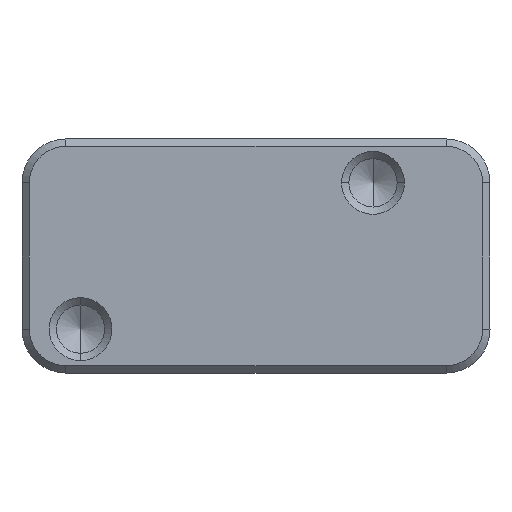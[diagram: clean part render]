
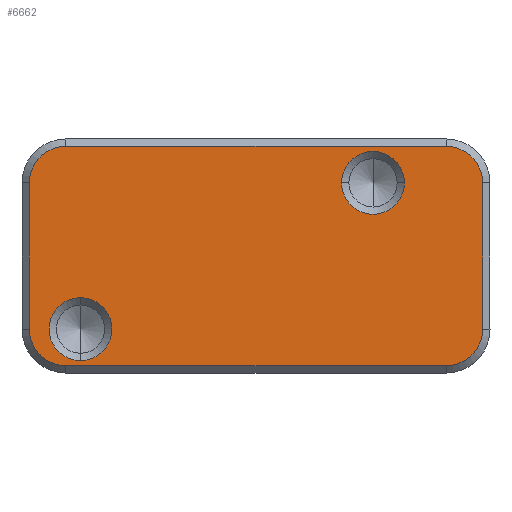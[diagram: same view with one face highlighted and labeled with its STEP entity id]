
A CAD part, front view. The second image highlights one B-rep face of the part: STEP entity #6662.
In plain terms, the highlighted planar face has unit normal (0, -1, 0).
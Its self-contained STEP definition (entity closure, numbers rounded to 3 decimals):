
#17 = CARTESIAN_POINT ( 'NONE',  ( 8.45, -0.189, -4.503 ) ) ;
#85 = DIRECTION ( 'NONE',  ( 0., 0., 1. ) ) ;
#386 = CARTESIAN_POINT ( 'NONE',  ( -13.4, -0.189, -2.003 ) ) ;
#515 = AXIS2_PLACEMENT_3D ( 'NONE', #7752, #13300, #9997 ) ;
#579 = DIRECTION ( 'NONE',  ( 0., 1., 0. ) ) ;
#908 = DIRECTION ( 'NONE',  ( 0., 0., -1. ) ) ;
#919 = EDGE_CURVE ( 'NONE', #4535, #3289, #2318, .T. ) ;
#978 = CARTESIAN_POINT ( 'NONE',  ( 18.1, -0.189, -14.504 ) ) ;
#1719 = DIRECTION ( 'NONE',  ( 0., 0., -1. ) ) ;
#1845 = FACE_BOUND ( 'NONE', #9796, .T. ) ;
#1849 = ORIENTED_EDGE ( 'NONE', *, *, #2703, .T. ) ;
#1907 = DIRECTION ( 'NONE',  ( 0., -1., 0. ) ) ;
#1922 = DIRECTION ( 'NONE',  ( 0., -1., 0. ) ) ;
#1989 = PLANE ( 'NONE',  #3981 ) ;
#2113 = CIRCLE ( 'NONE', #5336, 2.15 ) ;
#2162 = CARTESIAN_POINT ( 'NONE',  ( -10.4, -0.189, -17.003 ) ) ;
#2195 = CARTESIAN_POINT ( 'NONE',  ( 12.75, -0.189, -4.503 ) ) ;
#2318 = CIRCLE ( 'NONE', #7362, 2.15 ) ;
#2359 = VECTOR ( 'NONE', #13171, 1000. ) ;
#2497 = ORIENTED_EDGE ( 'NONE', *, *, #5726, .T. ) ;
#2703 = EDGE_CURVE ( 'NONE', #9587, #9918, #8299, .T. ) ;
#3004 = VERTEX_POINT ( 'NONE', #8580 ) ;
#3289 = VERTEX_POINT ( 'NONE', #5456 ) ;
#3507 = VECTOR ( 'NONE', #8004, 1000. ) ;
#3850 = CARTESIAN_POINT ( 'NONE',  ( -12.9, -0.189, -17.503 ) ) ;
#3929 = CARTESIAN_POINT ( 'NONE',  ( -13.4, -0.189, -17.503 ) ) ;
#3981 = AXIS2_PLACEMENT_3D ( 'NONE', #3929, #1922, #908 ) ;
#3993 = EDGE_LOOP ( 'NONE', ( #7591, #5839, #7909, #1849, #2497, #6149, #6877, #13427 ) ) ;
#4172 = AXIS2_PLACEMENT_3D ( 'NONE', #9026, #1907, #7289 ) ;
#4326 = CARTESIAN_POINT ( 'NONE',  ( 15.6, -0.189, -14.504 ) ) ;
#4474 = DIRECTION ( 'NONE',  ( 0., 0., -1. ) ) ;
#4535 = VERTEX_POINT ( 'NONE', #7734 ) ;
#4540 = EDGE_CURVE ( 'NONE', #3004, #11472, #8589, .T. ) ;
#4640 = AXIS2_PLACEMENT_3D ( 'NONE', #7964, #6814, #11205 ) ;
#4649 = VERTEX_POINT ( 'NONE', #17 ) ;
#4717 = EDGE_CURVE ( 'NONE', #8442, #4649, #2113, .T. ) ;
#4791 = EDGE_CURVE ( 'NONE', #13276, #9749, #5324, .T. ) ;
#4876 = AXIS2_PLACEMENT_3D ( 'NONE', #5254, #9647, #14028 ) ;
#5183 = DIRECTION ( 'NONE',  ( 1., 0., 0. ) ) ;
#5220 = FACE_OUTER_BOUND ( 'NONE', #3993, .T. ) ;
#5235 = CARTESIAN_POINT ( 'NONE',  ( -12.9, -0.189, -14.504 ) ) ;
#5254 = CARTESIAN_POINT ( 'NONE',  ( -10.4, -0.189, -14.504 ) ) ;
#5324 = LINE ( 'NONE', #5464, #12692 ) ;
#5336 = AXIS2_PLACEMENT_3D ( 'NONE', #10433, #579, #5183 ) ;
#5456 = CARTESIAN_POINT ( 'NONE',  ( -9.4, -0.189, -16.653 ) ) ;
#5464 = CARTESIAN_POINT ( 'NONE',  ( -13.4, -0.189, -17.003 ) ) ;
#5533 = LINE ( 'NONE', #13099, #2359 ) ;
#5726 = EDGE_CURVE ( 'NONE', #9918, #7664, #6855, .T. ) ;
#5770 = CARTESIAN_POINT ( 'NONE',  ( -10.4, -0.189, -2.003 ) ) ;
#5839 = ORIENTED_EDGE ( 'NONE', *, *, #7870, .F. ) ;
#6149 = ORIENTED_EDGE ( 'NONE', *, *, #9094, .T. ) ;
#6170 = DIRECTION ( 'NONE',  ( 0., 1., 0. ) ) ;
#6485 = CARTESIAN_POINT ( 'NONE',  ( -9.4, -0.189, -14.503 ) ) ;
#6662 = ADVANCED_FACE ( 'NONE', ( #5220, #1845, #11698 ), #1989, .T. ) ;
#6711 = CIRCLE ( 'NONE', #515, 2.15 ) ;
#6714 = ORIENTED_EDGE ( 'NONE', *, *, #9804, .T. ) ;
#6733 = AXIS2_PLACEMENT_3D ( 'NONE', #4326, #11351, #85 ) ;
#6814 = DIRECTION ( 'NONE',  ( 0., -1., 0. ) ) ;
#6855 = LINE ( 'NONE', #386, #3507 ) ;
#6877 = ORIENTED_EDGE ( 'NONE', *, *, #4540, .T. ) ;
#7109 = AXIS2_PLACEMENT_3D ( 'NONE', #7466, #6170, #1719 ) ;
#7289 = DIRECTION ( 'NONE',  ( 0., 0., 1. ) ) ;
#7362 = AXIS2_PLACEMENT_3D ( 'NONE', #6485, #10871, #4474 ) ;
#7466 = CARTESIAN_POINT ( 'NONE',  ( -9.4, -0.189, -14.503 ) ) ;
#7591 = ORIENTED_EDGE ( 'NONE', *, *, #4791, .F. ) ;
#7664 = VERTEX_POINT ( 'NONE', #5770 ) ;
#7734 = CARTESIAN_POINT ( 'NONE',  ( -9.4, -0.189, -12.353 ) ) ;
#7752 = CARTESIAN_POINT ( 'NONE',  ( 10.6, -0.189, -4.503 ) ) ;
#7870 = EDGE_CURVE ( 'NONE', #11740, #13276, #10407, .T. ) ;
#7909 = ORIENTED_EDGE ( 'NONE', *, *, #9897, .T. ) ;
#7964 = CARTESIAN_POINT ( 'NONE',  ( -10.4, -0.189, -4.503 ) ) ;
#7986 = CARTESIAN_POINT ( 'NONE',  ( 18.1, -0.189, -4.503 ) ) ;
#8004 = DIRECTION ( 'NONE',  ( -1., 0., 0. ) ) ;
#8182 = CARTESIAN_POINT ( 'NONE',  ( 15.6, -0.189, -2.003 ) ) ;
#8299 = CIRCLE ( 'NONE', #4172, 2.5 ) ;
#8442 = VERTEX_POINT ( 'NONE', #2195 ) ;
#8580 = CARTESIAN_POINT ( 'NONE',  ( -12.9, -0.189, -4.503 ) ) ;
#8589 = LINE ( 'NONE', #3850, #12227 ) ;
#8758 = CARTESIAN_POINT ( 'NONE',  ( 15.6, -0.189, -17.003 ) ) ;
#8882 = ORIENTED_EDGE ( 'NONE', *, *, #4717, .T. ) ;
#9026 = CARTESIAN_POINT ( 'NONE',  ( 15.6, -0.189, -4.503 ) ) ;
#9094 = EDGE_CURVE ( 'NONE', #7664, #3004, #13613, .T. ) ;
#9587 = VERTEX_POINT ( 'NONE', #7986 ) ;
#9647 = DIRECTION ( 'NONE',  ( 0., 1., 0. ) ) ;
#9727 = EDGE_CURVE ( 'NONE', #9749, #11472, #11311, .T. ) ;
#9749 = VERTEX_POINT ( 'NONE', #2162 ) ;
#9796 = EDGE_LOOP ( 'NONE', ( #12241, #10464 ) ) ;
#9804 = EDGE_CURVE ( 'NONE', #4649, #8442, #6711, .T. ) ;
#9897 = EDGE_CURVE ( 'NONE', #11740, #9587, #5533, .T. ) ;
#9918 = VERTEX_POINT ( 'NONE', #8182 ) ;
#9997 = DIRECTION ( 'NONE',  ( 1., 0., 0. ) ) ;
#10407 = CIRCLE ( 'NONE', #6733, 2.5 ) ;
#10433 = CARTESIAN_POINT ( 'NONE',  ( 10.6, -0.189, -4.503 ) ) ;
#10464 = ORIENTED_EDGE ( 'NONE', *, *, #919, .T. ) ;
#10797 = CIRCLE ( 'NONE', #7109, 2.15 ) ;
#10859 = DIRECTION ( 'NONE',  ( -1., 0., 0. ) ) ;
#10871 = DIRECTION ( 'NONE',  ( 0., 1., 0. ) ) ;
#11205 = DIRECTION ( 'NONE',  ( 0., 0., 1. ) ) ;
#11311 = CIRCLE ( 'NONE', #4876, 2.5 ) ;
#11351 = DIRECTION ( 'NONE',  ( 0., 1., 0. ) ) ;
#11472 = VERTEX_POINT ( 'NONE', #5235 ) ;
#11477 = EDGE_LOOP ( 'NONE', ( #8882, #6714 ) ) ;
#11478 = DIRECTION ( 'NONE',  ( 0., 0., -1. ) ) ;
#11698 = FACE_BOUND ( 'NONE', #11477, .T. ) ;
#11740 = VERTEX_POINT ( 'NONE', #978 ) ;
#12227 = VECTOR ( 'NONE', #11478, 1000. ) ;
#12241 = ORIENTED_EDGE ( 'NONE', *, *, #14196, .T. ) ;
#12692 = VECTOR ( 'NONE', #10859, 1000. ) ;
#13099 = CARTESIAN_POINT ( 'NONE',  ( 18.1, -0.189, -17.503 ) ) ;
#13171 = DIRECTION ( 'NONE',  ( 0., 0., 1. ) ) ;
#13276 = VERTEX_POINT ( 'NONE', #8758 ) ;
#13300 = DIRECTION ( 'NONE',  ( 0., 1., 0. ) ) ;
#13427 = ORIENTED_EDGE ( 'NONE', *, *, #9727, .F. ) ;
#13613 = CIRCLE ( 'NONE', #4640, 2.5 ) ;
#14028 = DIRECTION ( 'NONE',  ( 0., 0., 1. ) ) ;
#14196 = EDGE_CURVE ( 'NONE', #3289, #4535, #10797, .T. ) ;
